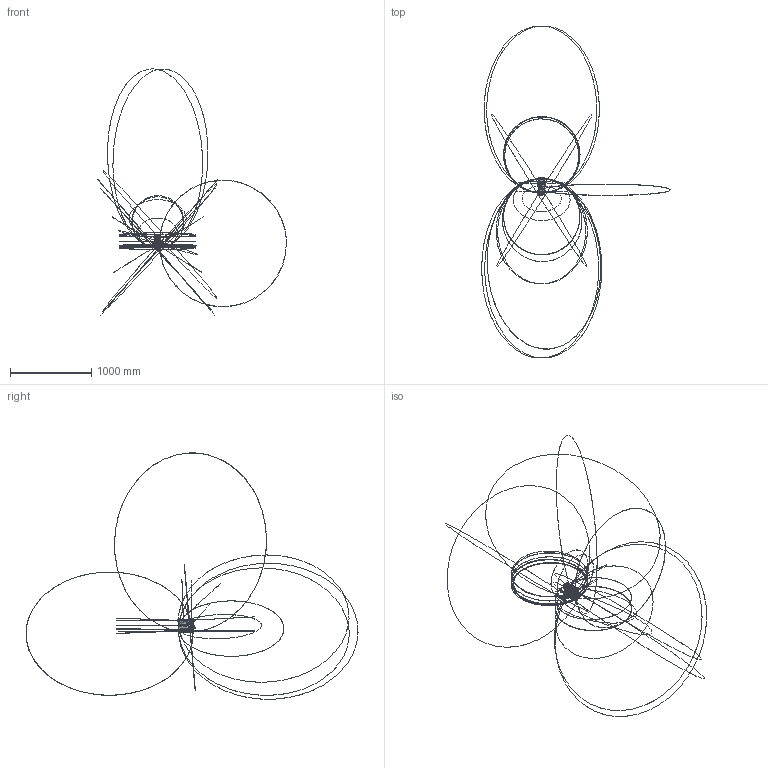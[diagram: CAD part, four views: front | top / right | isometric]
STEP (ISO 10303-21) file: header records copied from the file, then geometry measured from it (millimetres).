
FILE_DESCRIPTION((''),'2;1');
FILE_NAME('PRT0002','2014-02-19T',('owenrh01'),(''),'PRO/ENGINEER BY PARAMETRIC TECHNOLOGY CORPORATION, 2011490','PRO/ENGINEER BY PARAMETRIC TECHNOLOGY CORPORATION, 2011490','');
FILE_SCHEMA(('CONFIG_CONTROL_DESIGN'));
Products named in the file (1): PRT0002
Bounding box: 2315.47 x 4074.49 x 3022.26 mm (x, y, z)
Surface area: 650816.6 mm2 (no closed solid volume)
Topology: 0 solids, 0 shells, 3902 faces, 24475 edges, 24217 vertices
Faces by surface type: bspline 3604, torus 269, sphere 29
Entity records: 412923 total; most frequent: CARTESIAN_POINT 201320, DIRECTION 30424, TRIMMED_CURVE 27687, VECTOR 25546, LINE 25546, DEFINITIONAL_REPRESENTATION 23934, PCURVE 23934, COMPOSITE_CURVE_SEGMENT 23934
